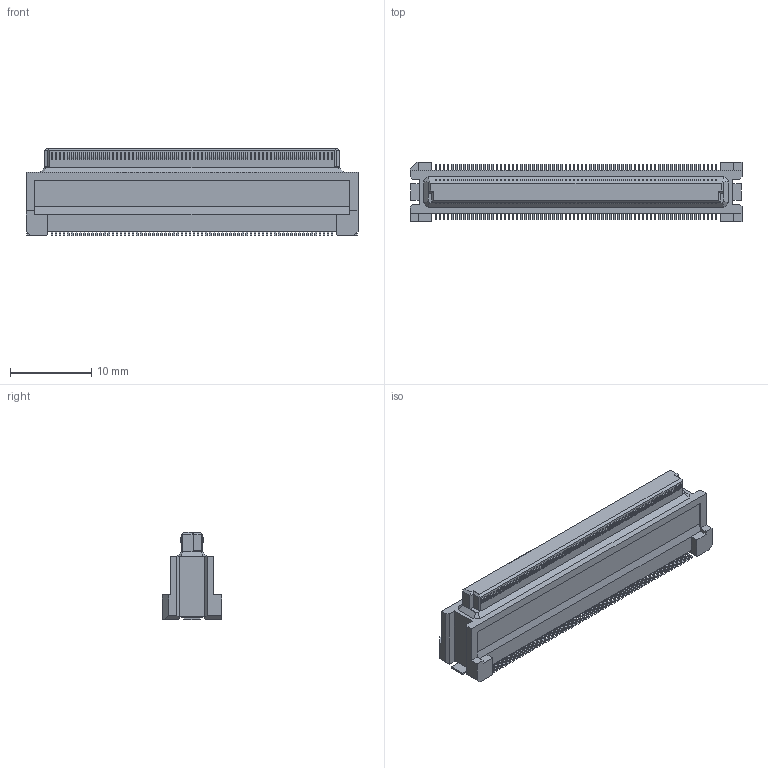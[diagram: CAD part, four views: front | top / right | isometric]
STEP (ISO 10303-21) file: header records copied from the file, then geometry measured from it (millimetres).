
FILE_DESCRIPTION(('Creo Elements/Direct Modeling STEP Export'),'2;1');
FILE_NAME('DY10-140FS-2.stp','2017-11-28T11:12:35',(''),(''),'Creo Elements/Direct Modeling STEP processor for AP214 (Solid Model)','Creo Elements/Direct Modeling 19.0F 14-Feb-2017 (C) Parametric Technology GmbH','');
FILE_SCHEMA(('AUTOMOTIVE_DESIGN { 1 0 10303 214 1 1 1 1 }'));
Products named in the file (2): DY10-140FS-2
Assembly tree (1 placements, depth 2):
  DY10-140FS-2
    DY10-140FS-2
Bounding box: 40.9 x 7.3 x 10.73 mm (x, y, z)
Volume: 1683.5 mm3; surface area: 1654.1 mm2
Topology: 1 solids, 1 shells, 1976 faces, 5453 edges, 3622 vertices
Faces by surface type: plane 1402, cylinder 566, bspline 8
Entity records: 61789 total; most frequent: CARTESIAN_POINT 11930, ORIENTED_EDGE 10906, DIRECTION 9647, EDGE_CURVE 5453, VECTOR 4289, LINE 4289, VERTEX_POINT 3622, AXIS2_PLACEMENT_3D 2679
